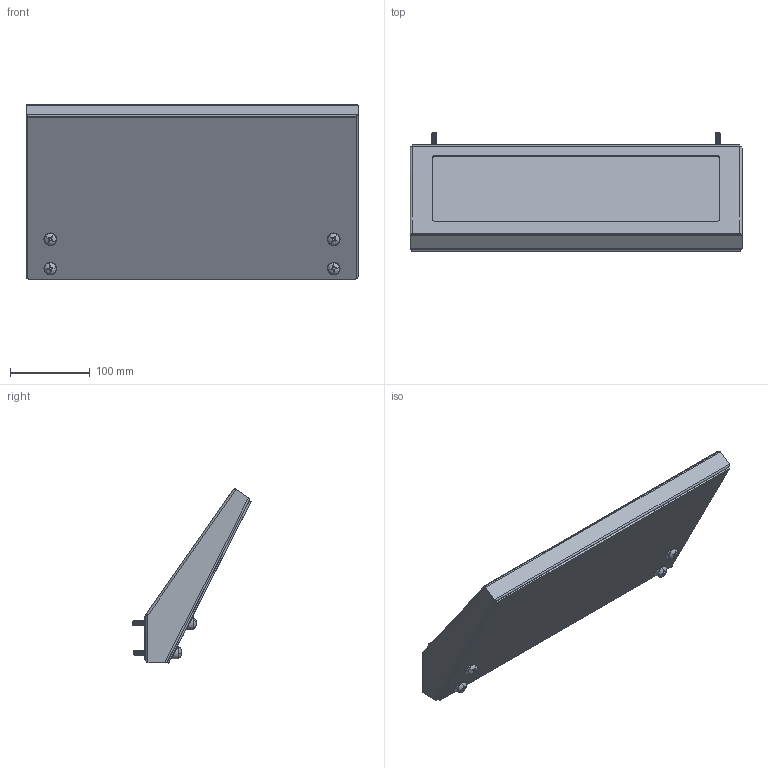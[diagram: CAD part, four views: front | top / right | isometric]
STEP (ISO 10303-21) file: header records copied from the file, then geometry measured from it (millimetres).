
FILE_DESCRIPTION (( 'STEP AP214' ), '1' );
FILE_NAME ('KB-xx-EXT Keyboard Assembly.STEP', '2017-07-10T20:32:18', ( '' ), ( '' ), 'SwSTEP 2.0', 'SolidWorks 2017', '' );
FILE_SCHEMA (( 'AUTOMOTIVE_DESIGN' ));
Length unit declared in the file: millimetre
Products named in the file (7): Gasket, 10459; Screw, Longer Truss Head, 30296; Washer, 30352; Adapter Washer, 10491; Screw, Shorter Truss Head, 30295; Keyboard Enclosure, KB-xx-EXT; KB-xx-EXT Keyboard Assembly
Assembly tree (14 placements, depth 2):
  KB-xx-EXT Keyboard Assembly
    Keyboard Enclosure, KB-xx-EXT
    Screw, Shorter Truss Head, 30295  x2
    Adapter Washer, 10491  x4
    Washer, 30352  x4
    Screw, Longer Truss Head, 30296  x2
    Gasket, 10459
Bounding box: 416.56 x 148.57 x 218.41 mm (x, y, z)
Volume: 3895764.5 mm3; surface area: 289394.4 mm2
Topology: 14 solids, 14 shells, 768 faces, 2174 edges, 1436 vertices
Faces by surface type: cylinder 571, plane 131, cone 38, sphere 20, bspline 8
Entity records: 20695 total; most frequent: CARTESIAN_POINT 10855, ORIENTED_EDGE 2332, DIRECTION 1675, EDGE_CURVE 1166, VERTEX_POINT 770, AXIS2_PLACEMENT_3D 616, LINE 443, VECTOR 443
